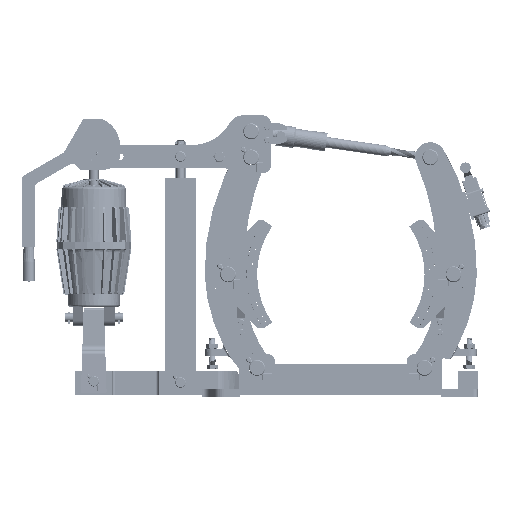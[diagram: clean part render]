
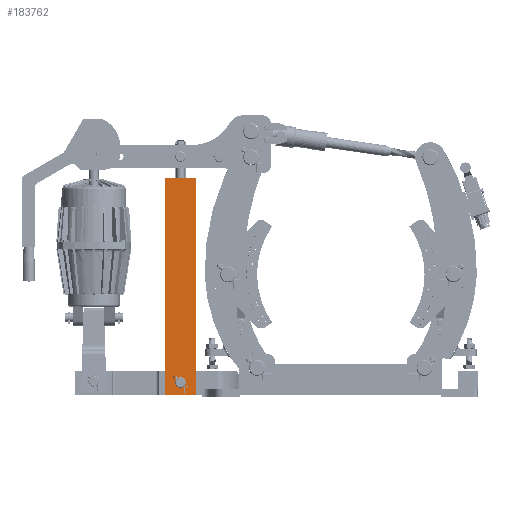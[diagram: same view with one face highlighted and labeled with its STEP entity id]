
A CAD part, left-side view. The second image highlights one B-rep face of the part: STEP entity #183762.
In plain terms, the highlighted planar face has unit normal (-1, 0, 0).
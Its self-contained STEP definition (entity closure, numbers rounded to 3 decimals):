
#183609=DIRECTION('',(0.,-1.,0.));
#183610=VECTOR('',#183609,60.);
#183611=CARTESIAN_POINT('',(-90.,589.001,412.));
#183612=LINE('',#183611,#183610);
#183616=DIRECTION('',(0.,0.,-1.));
#183617=VECTOR('',#183616,408.);
#183618=CARTESIAN_POINT('',(-90.,529.001,412.));
#183619=LINE('',#183618,#183617);
#183623=DIRECTION('',(0.,1.,0.));
#183624=VECTOR('',#183623,60.);
#183625=CARTESIAN_POINT('',(-90.,529.001,4.));
#183626=LINE('',#183625,#183624);
#183630=DIRECTION('',(0.,0.,1.));
#183631=VECTOR('',#183630,408.);
#183632=CARTESIAN_POINT('',(-90.,589.001,4.));
#183633=LINE('',#183632,#183631);
#183637=CARTESIAN_POINT('',(-90.,569.001,26.5));
#183638=CARTESIAN_POINT('',(-90.,569.,26.15));
#183639=CARTESIAN_POINT('',(-90.,568.964,25.453));
#183640=CARTESIAN_POINT('',(-90.,568.8,24.417));
#183641=CARTESIAN_POINT('',(-90.,568.528,23.404));
#183642=CARTESIAN_POINT('',(-90.,568.153,22.427));
#183643=CARTESIAN_POINT('',(-90.,567.676,21.489));
#183644=CARTESIAN_POINT('',(-90.,567.103,20.609));
#183645=CARTESIAN_POINT('',(-90.,566.442,19.793));
#183646=CARTESIAN_POINT('',(-90.,565.7,19.051));
#183647=CARTESIAN_POINT('',(-90.,564.885,18.392));
#183648=CARTESIAN_POINT('',(-90.,564.006,17.822));
#183649=CARTESIAN_POINT('',(-90.,563.07,17.346));
#183650=CARTESIAN_POINT('',(-90.,562.095,16.972));
#183651=CARTESIAN_POINT('',(-90.,561.084,16.701));
#183652=CARTESIAN_POINT('',(-90.,560.048,16.537));
#183653=CARTESIAN_POINT('',(-90.,559.351,16.5));
#183654=CARTESIAN_POINT('',(-90.,559.001,16.5));
#183659=CARTESIAN_POINT('',(-90.,559.001,16.5));
#183660=CARTESIAN_POINT('',(-90.,558.65,16.5));
#183661=CARTESIAN_POINT('',(-90.,557.954,16.537));
#183662=CARTESIAN_POINT('',(-90.,556.917,16.701));
#183663=CARTESIAN_POINT('',(-90.,555.905,16.972));
#183664=CARTESIAN_POINT('',(-90.,554.927,17.347));
#183665=CARTESIAN_POINT('',(-90.,553.99,17.825));
#183666=CARTESIAN_POINT('',(-90.,553.109,18.397));
#183667=CARTESIAN_POINT('',(-90.,552.293,19.059));
#183668=CARTESIAN_POINT('',(-90.,551.552,19.801));
#183669=CARTESIAN_POINT('',(-90.,550.893,20.616));
#183670=CARTESIAN_POINT('',(-90.,550.322,21.495));
#183671=CARTESIAN_POINT('',(-90.,549.846,22.43));
#183672=CARTESIAN_POINT('',(-90.,549.472,23.406));
#183673=CARTESIAN_POINT('',(-90.,549.201,24.417));
#183674=CARTESIAN_POINT('',(-90.,549.037,25.452));
#183675=CARTESIAN_POINT('',(-90.,549.001,26.149));
#183676=CARTESIAN_POINT('',(-90.,549.001,26.5));
#183681=CARTESIAN_POINT('',(-90.,549.001,26.5));
#183682=CARTESIAN_POINT('',(-90.,549.001,26.851));
#183683=CARTESIAN_POINT('',(-90.,549.037,27.547));
#183684=CARTESIAN_POINT('',(-90.,549.201,28.583));
#183685=CARTESIAN_POINT('',(-90.,549.473,29.596));
#183686=CARTESIAN_POINT('',(-90.,549.848,30.573));
#183687=CARTESIAN_POINT('',(-90.,550.325,31.511));
#183688=CARTESIAN_POINT('',(-90.,550.898,32.392));
#183689=CARTESIAN_POINT('',(-90.,551.559,33.208));
#183690=CARTESIAN_POINT('',(-90.,552.301,33.949));
#183691=CARTESIAN_POINT('',(-90.,553.116,34.608));
#183692=CARTESIAN_POINT('',(-90.,553.995,35.178));
#183693=CARTESIAN_POINT('',(-90.,554.931,35.655));
#183694=CARTESIAN_POINT('',(-90.,555.906,36.028));
#183695=CARTESIAN_POINT('',(-90.,556.917,36.299));
#183696=CARTESIAN_POINT('',(-90.,557.953,36.464));
#183697=CARTESIAN_POINT('',(-90.,558.65,36.5));
#183698=CARTESIAN_POINT('',(-90.,559.001,36.5));
#183703=CARTESIAN_POINT('',(-90.,559.001,36.5));
#183704=CARTESIAN_POINT('',(-90.,559.351,36.5));
#183705=CARTESIAN_POINT('',(-90.,560.047,36.464));
#183706=CARTESIAN_POINT('',(-90.,561.084,36.299));
#183707=CARTESIAN_POINT('',(-90.,562.097,36.028));
#183708=CARTESIAN_POINT('',(-90.,563.074,35.653));
#183709=CARTESIAN_POINT('',(-90.,564.011,35.175));
#183710=CARTESIAN_POINT('',(-90.,564.892,34.603));
#183711=CARTESIAN_POINT('',(-90.,565.708,33.942));
#183712=CARTESIAN_POINT('',(-90.,566.449,33.2));
#183713=CARTESIAN_POINT('',(-90.,567.109,32.385));
#183714=CARTESIAN_POINT('',(-90.,567.679,31.506));
#183715=CARTESIAN_POINT('',(-90.,568.155,30.57));
#183716=CARTESIAN_POINT('',(-90.,568.529,29.595));
#183717=CARTESIAN_POINT('',(-90.,568.8,28.584));
#183718=CARTESIAN_POINT('',(-90.,568.964,27.548));
#183719=CARTESIAN_POINT('',(-90.,569.,26.851));
#183720=CARTESIAN_POINT('',(-90.,569.001,26.5));
#183725=CARTESIAN_POINT('',(-90.,589.001,412.));
#183726=CARTESIAN_POINT('',(-90.,529.001,412.));
#183727=VERTEX_POINT('',#183725);
#183728=VERTEX_POINT('',#183726);
#183729=CARTESIAN_POINT('',(-90.,529.001,4.));
#183730=VERTEX_POINT('',#183729);
#183731=CARTESIAN_POINT('',(-90.,589.001,4.));
#183732=VERTEX_POINT('',#183731);
#183733=VERTEX_POINT('',#183637);
#183734=VERTEX_POINT('',#183654);
#183735=VERTEX_POINT('',#183676);
#183736=VERTEX_POINT('',#183698);
#183737=CARTESIAN_POINT('',(-90.,559.001,208.));
#183738=DIRECTION('',(1.,0.,0.));
#183739=DIRECTION('',(0.,0.,-1.));
#183740=AXIS2_PLACEMENT_3D('',#183737,#183738,#183739);
#183741=PLANE('',#183740);
#183743=ORIENTED_EDGE('',*,*,#183742,.T.);
#183745=ORIENTED_EDGE('',*,*,#183744,.T.);
#183747=ORIENTED_EDGE('',*,*,#183746,.T.);
#183749=ORIENTED_EDGE('',*,*,#183748,.T.);
#183750=EDGE_LOOP('',(#183743,#183745,#183747,#183749));
#183751=FACE_OUTER_BOUND('',#183750,.F.);
#183753=ORIENTED_EDGE('',*,*,#183752,.T.);
#183755=ORIENTED_EDGE('',*,*,#183754,.T.);
#183757=ORIENTED_EDGE('',*,*,#183756,.T.);
#183759=ORIENTED_EDGE('',*,*,#183758,.T.);
#183760=EDGE_LOOP('',(#183753,#183755,#183757,#183759));
#183761=FACE_BOUND('',#183760,.F.);
#183762=ADVANCED_FACE('',(#183751,#183761),#183741,.F.);
#183655=B_SPLINE_CURVE_WITH_KNOTS('',3,(#183637,#183638,#183639,#183640,#183641,
#183642,#183643,#183644,#183645,#183646,#183647,#183648,#183649,#183650,#183651,
#183652,#183653,#183654),.UNSPECIFIED.,.F.,.F.,(4,1,1,1,1,1,1,1,1,1,1,1,1,1,1,
4),(0.,0.067,0.133,0.2,0.267,
0.333,0.4,0.467,0.533,0.6,
0.667,0.733,0.8,0.867,0.933,
1.),.UNSPECIFIED.);
#183677=B_SPLINE_CURVE_WITH_KNOTS('',3,(#183659,#183660,#183661,#183662,#183663,
#183664,#183665,#183666,#183667,#183668,#183669,#183670,#183671,#183672,#183673,
#183674,#183675,#183676),.UNSPECIFIED.,.F.,.F.,(4,1,1,1,1,1,1,1,1,1,1,1,1,1,1,
4),(0.,0.067,0.133,0.2,0.267,
0.333,0.4,0.467,0.533,0.6,
0.667,0.733,0.8,0.867,0.933,
1.),.UNSPECIFIED.);
#183699=B_SPLINE_CURVE_WITH_KNOTS('',3,(#183681,#183682,#183683,#183684,#183685,
#183686,#183687,#183688,#183689,#183690,#183691,#183692,#183693,#183694,#183695,
#183696,#183697,#183698),.UNSPECIFIED.,.F.,.F.,(4,1,1,1,1,1,1,1,1,1,1,1,1,1,1,
4),(0.,0.067,0.133,0.2,0.267,
0.333,0.4,0.467,0.533,0.6,
0.667,0.733,0.8,0.867,0.933,
1.),.UNSPECIFIED.);
#183721=B_SPLINE_CURVE_WITH_KNOTS('',3,(#183703,#183704,#183705,#183706,#183707,
#183708,#183709,#183710,#183711,#183712,#183713,#183714,#183715,#183716,#183717,
#183718,#183719,#183720),.UNSPECIFIED.,.F.,.F.,(4,1,1,1,1,1,1,1,1,1,1,1,1,1,1,
4),(0.,0.067,0.133,0.2,0.267,
0.333,0.4,0.467,0.533,0.6,
0.667,0.733,0.8,0.867,0.933,
1.),.UNSPECIFIED.);
#183742=EDGE_CURVE('',#183727,#183728,#183612,.T.);
#183744=EDGE_CURVE('',#183728,#183730,#183619,.T.);
#183746=EDGE_CURVE('',#183730,#183732,#183626,.T.);
#183748=EDGE_CURVE('',#183732,#183727,#183633,.T.);
#183752=EDGE_CURVE('',#183733,#183734,#183655,.T.);
#183754=EDGE_CURVE('',#183734,#183735,#183677,.T.);
#183756=EDGE_CURVE('',#183735,#183736,#183699,.T.);
#183758=EDGE_CURVE('',#183736,#183733,#183721,.T.);
